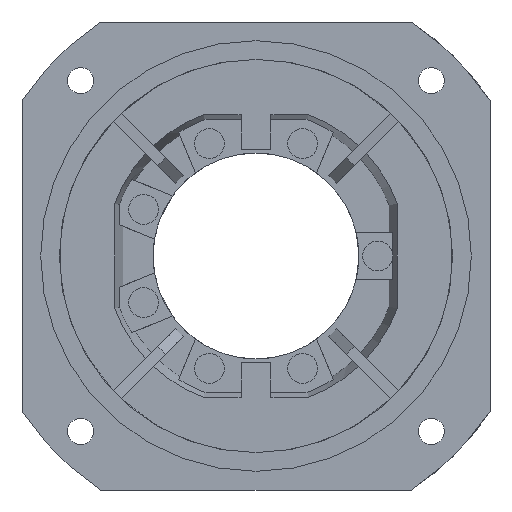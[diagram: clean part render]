
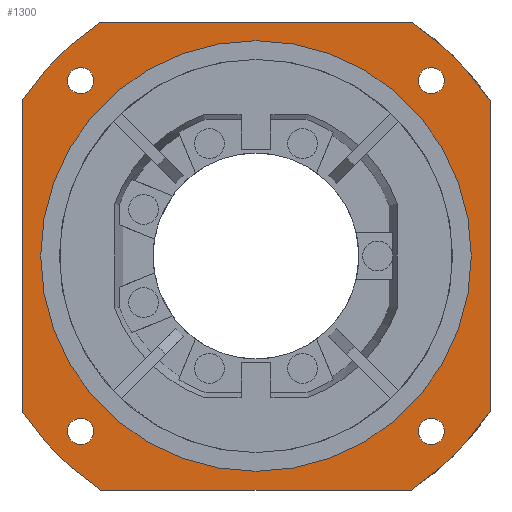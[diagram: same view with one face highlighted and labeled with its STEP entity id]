
A CAD part, left-side view. The second image highlights one B-rep face of the part: STEP entity #1300.
In plain terms, the highlighted planar face has unit normal (-1, 0, 0) as drawn and (1, 0, 0) by its records, which use the part's own axes.
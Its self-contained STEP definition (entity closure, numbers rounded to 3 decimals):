
#1300=ADVANCED_FACE('',(#1493,#1426,#1427,#1428,#1429,#1430),#4196,.T.);
#1426=FACE_BOUND('',#1681,.T.);
#1427=FACE_BOUND('',#1682,.T.);
#1428=FACE_BOUND('',#1683,.T.);
#1429=FACE_BOUND('',#1684,.T.);
#1430=FACE_BOUND('',#1685,.T.);
#1493=FACE_OUTER_BOUND('',#1680,.T.);
#1680=EDGE_LOOP('',(#2241,#2242,#2243,#2244,#2245,#2246,#2247,#2248));
#1681=EDGE_LOOP('',(#2249,#2250));
#1682=EDGE_LOOP('',(#2251,#2252));
#1683=EDGE_LOOP('',(#2253,#2254));
#1684=EDGE_LOOP('',(#2255,#2256));
#1685=EDGE_LOOP('',(#2257,#2258));
#2241=ORIENTED_EDGE('',*,*,#2945,.F.);
#2242=ORIENTED_EDGE('',*,*,#2923,.T.);
#2243=ORIENTED_EDGE('',*,*,#2756,.F.);
#2244=ORIENTED_EDGE('',*,*,#2763,.T.);
#2245=ORIENTED_EDGE('',*,*,#2768,.F.);
#2246=ORIENTED_EDGE('',*,*,#2926,.T.);
#2247=ORIENTED_EDGE('',*,*,#2929,.F.);
#2248=ORIENTED_EDGE('',*,*,#2931,.T.);
#2249=ORIENTED_EDGE('',*,*,#2941,.T.);
#2250=ORIENTED_EDGE('',*,*,#3117,.T.);
#2251=ORIENTED_EDGE('',*,*,#2938,.T.);
#2252=ORIENTED_EDGE('',*,*,#3114,.T.);
#2253=ORIENTED_EDGE('',*,*,#2935,.T.);
#2254=ORIENTED_EDGE('',*,*,#3111,.T.);
#2255=ORIENTED_EDGE('',*,*,#2932,.T.);
#2256=ORIENTED_EDGE('',*,*,#3108,.T.);
#2257=ORIENTED_EDGE('',*,*,#2947,.T.);
#2258=ORIENTED_EDGE('',*,*,#3121,.T.);
#2756=EDGE_CURVE('',#3837,#3838,#3218,.T.);
#2763=EDGE_CURVE('',#3837,#3842,#3504,.T.);
#2768=EDGE_CURVE('',#3844,#3842,#3221,.T.);
#2923=EDGE_CURVE('',#3999,#3838,#3619,.T.);
#2926=EDGE_CURVE('',#3844,#4000,#3622,.T.);
#2929=EDGE_CURVE('',#4001,#4000,#3258,.T.);
#2931=EDGE_CURVE('',#4001,#4002,#3625,.T.);
#2932=EDGE_CURVE('',#4003,#4039,#3259,.T.);
#2935=EDGE_CURVE('',#4004,#4041,#3261,.T.);
#2938=EDGE_CURVE('',#4005,#4043,#3263,.T.);
#2941=EDGE_CURVE('',#4006,#4045,#3265,.T.);
#2945=EDGE_CURVE('',#3999,#4002,#3268,.T.);
#2947=EDGE_CURVE('',#4007,#4047,#3270,.T.);
#3108=EDGE_CURVE('',#4039,#4003,#3311,.T.);
#3111=EDGE_CURVE('',#4041,#4004,#3313,.T.);
#3114=EDGE_CURVE('',#4043,#4005,#3315,.T.);
#3117=EDGE_CURVE('',#4045,#4006,#3317,.T.);
#3121=EDGE_CURVE('',#4047,#4007,#3320,.T.);
#3218=TRIMMED_CURVE($,#3346,(#5946),(#5947),.T.,.CARTESIAN.);
#3221=TRIMMED_CURVE($,#3349,(#5973),(#5974),.T.,.CARTESIAN.);
#3258=TRIMMED_CURVE($,#3386,(#6376),(#6377),.T.,.CARTESIAN.);
#3259=TRIMMED_CURVE($,#3387,(#6383),(#6384),.T.,.CARTESIAN.);
#3261=TRIMMED_CURVE($,#3389,(#6391),(#6392),.T.,.CARTESIAN.);
#3263=TRIMMED_CURVE($,#3391,(#6399),(#6400),.T.,.CARTESIAN.);
#3265=TRIMMED_CURVE($,#3393,(#6407),(#6408),.T.,.CARTESIAN.);
#3268=TRIMMED_CURVE($,#3396,(#6418),(#6419),.T.,.CARTESIAN.);
#3270=TRIMMED_CURVE($,#3398,(#6424),(#6425),.T.,.CARTESIAN.);
#3311=TRIMMED_CURVE($,#3439,(#6851),(#6852),.T.,.CARTESIAN.);
#3313=TRIMMED_CURVE($,#3441,(#6859),(#6860),.T.,.CARTESIAN.);
#3315=TRIMMED_CURVE($,#3443,(#6867),(#6868),.T.,.CARTESIAN.);
#3317=TRIMMED_CURVE($,#3445,(#6875),(#6876),.T.,.CARTESIAN.);
#3320=TRIMMED_CURVE($,#3448,(#6886),(#6887),.T.,.CARTESIAN.);
#3346=CIRCLE('',#4677,150.);
#3349=CIRCLE('',#4680,150.);
#3386=CIRCLE('',#4717,150.);
#3387=CIRCLE('',#4718,7.);
#3389=CIRCLE('',#4720,7.);
#3391=CIRCLE('',#4722,7.);
#3393=CIRCLE('',#4724,7.);
#3396=CIRCLE('',#4727,150.);
#3398=CIRCLE('',#4729,115.);
#3439=CIRCLE('',#4770,7.);
#3441=CIRCLE('',#4772,7.);
#3443=CIRCLE('',#4774,7.);
#3445=CIRCLE('',#4776,7.);
#3448=CIRCLE('',#4779,115.);
#3504=B_SPLINE_CURVE_WITH_KNOTS('',1,(#5961,#5962),.UNSPECIFIED.,.F.,.F.,
(2,2),(-165.831,0.),.UNSPECIFIED.);
#3619=B_SPLINE_CURVE_WITH_KNOTS('',1,(#6362,#6363),.UNSPECIFIED.,.F.,.F.,
(2,2),(-165.831,0.),.UNSPECIFIED.);
#3622=B_SPLINE_CURVE_WITH_KNOTS('',1,(#6368,#6369),.UNSPECIFIED.,.F.,.F.,
(2,2),(-165.831,0.),.UNSPECIFIED.);
#3625=B_SPLINE_CURVE_WITH_KNOTS('',1,(#6380,#6381),.UNSPECIFIED.,.F.,.F.,
(2,2),(-165.831,0.),.UNSPECIFIED.);
#3837=VERTEX_POINT('',#5660);
#3838=VERTEX_POINT('',#5661);
#3842=VERTEX_POINT('',#5665);
#3844=VERTEX_POINT('',#5667);
#3999=VERTEX_POINT('',#5822);
#4000=VERTEX_POINT('',#5823);
#4001=VERTEX_POINT('',#5824);
#4002=VERTEX_POINT('',#5825);
#4003=VERTEX_POINT('',#5826);
#4004=VERTEX_POINT('',#5827);
#4005=VERTEX_POINT('',#5828);
#4006=VERTEX_POINT('',#5829);
#4007=VERTEX_POINT('',#5830);
#4039=VERTEX_POINT('',#5862);
#4041=VERTEX_POINT('',#5864);
#4043=VERTEX_POINT('',#5866);
#4045=VERTEX_POINT('',#5868);
#4047=VERTEX_POINT('',#5870);
#4196=PLANE('',#4586);
#4586=AXIS2_PLACEMENT_3D('',#5520,#4881,$);
#4677=AXIS2_PLACEMENT_3D($,#5945,#4973,#4974);
#4680=AXIS2_PLACEMENT_3D($,#5972,#4979,#4980);
#4717=AXIS2_PLACEMENT_3D($,#6375,#5053,#5054);
#4718=AXIS2_PLACEMENT_3D($,#6382,#5055,#5056);
#4720=AXIS2_PLACEMENT_3D($,#6390,#5059,#5060);
#4722=AXIS2_PLACEMENT_3D($,#6398,#5063,#5064);
#4724=AXIS2_PLACEMENT_3D($,#6406,#5067,#5068);
#4727=AXIS2_PLACEMENT_3D($,#6417,#5073,#5074);
#4729=AXIS2_PLACEMENT_3D($,#6423,#5077,#5078);
#4770=AXIS2_PLACEMENT_3D($,#6850,#5159,#5160);
#4772=AXIS2_PLACEMENT_3D($,#6858,#5163,#5164);
#4774=AXIS2_PLACEMENT_3D($,#6866,#5167,#5168);
#4776=AXIS2_PLACEMENT_3D($,#6874,#5171,#5172);
#4779=AXIS2_PLACEMENT_3D($,#6885,#5177,#5178);
#4881=DIRECTION('',(1.,0.,0.));
#4973=DIRECTION('',(-1.,0.,0.));
#4974=DIRECTION('',(0.,-0.833,0.553));
#4979=DIRECTION('',(-1.,0.,0.));
#4980=DIRECTION('',(0.,-0.553,-0.833));
#5053=DIRECTION('',(-1.,0.,0.));
#5054=DIRECTION('',(0.,0.833,-0.553));
#5055=DIRECTION('',(-1.,0.,0.));
#5056=DIRECTION('',(0.,0.,-1.));
#5059=DIRECTION('',(-1.,0.,0.));
#5060=DIRECTION('',(0.,0.,-1.));
#5063=DIRECTION('',(-1.,0.,0.));
#5064=DIRECTION('',(0.,0.,-1.));
#5067=DIRECTION('',(-1.,0.,0.));
#5068=DIRECTION('',(0.,0.,-1.));
#5073=DIRECTION('',(-1.,0.,0.));
#5074=DIRECTION('',(0.,0.553,0.833));
#5077=DIRECTION('',(-1.,0.,0.));
#5078=DIRECTION('',(0.,0.,-1.));
#5159=DIRECTION('',(-1.,0.,0.));
#5160=DIRECTION('',(0.,0.,1.));
#5163=DIRECTION('',(-1.,0.,0.));
#5164=DIRECTION('',(0.,0.,1.));
#5167=DIRECTION('',(-1.,0.,0.));
#5168=DIRECTION('',(0.,0.,1.));
#5171=DIRECTION('',(-1.,0.,0.));
#5172=DIRECTION('',(0.,0.,1.));
#5177=DIRECTION('',(-1.,0.,0.));
#5178=DIRECTION('',(0.,0.,1.));
#5520=CARTESIAN_POINT('',(32.,-150.,150.));
#5660=CARTESIAN_POINT('',(32.,-125.,82.916));
#5661=CARTESIAN_POINT('',(32.,-82.916,125.));
#5665=CARTESIAN_POINT('',(32.,-125.,-82.916));
#5667=CARTESIAN_POINT('',(32.,-82.916,-125.));
#5822=CARTESIAN_POINT('',(32.,82.916,125.));
#5823=CARTESIAN_POINT('',(32.,82.916,-125.));
#5824=CARTESIAN_POINT('',(32.,125.,-82.916));
#5825=CARTESIAN_POINT('',(32.,125.,82.916));
#5826=CARTESIAN_POINT('',(32.,93.692,-100.691));
#5827=CARTESIAN_POINT('',(32.,-93.691,-100.691));
#5828=CARTESIAN_POINT('',(32.,93.692,86.692));
#5829=CARTESIAN_POINT('',(32.,-93.691,86.692));
#5830=CARTESIAN_POINT('',(32.,0.,-115.));
#5862=CARTESIAN_POINT('',(32.,93.692,-86.691));
#5864=CARTESIAN_POINT('',(32.,-93.691,-86.691));
#5866=CARTESIAN_POINT('',(32.,93.692,100.692));
#5868=CARTESIAN_POINT('',(32.,-93.691,100.692));
#5870=CARTESIAN_POINT('',(32.,0.,115.));
#5945=CARTESIAN_POINT('',(32.,0.,0.));
#5946=CARTESIAN_POINT('',(32.,-125.,82.916));
#5947=CARTESIAN_POINT('',(32.,-82.916,125.));
#5961=CARTESIAN_POINT('',(32.,-125.,82.916));
#5962=CARTESIAN_POINT('',(32.,-125.,-82.916));
#5972=CARTESIAN_POINT('',(32.,0.,0.));
#5973=CARTESIAN_POINT('',(32.,-82.916,-125.));
#5974=CARTESIAN_POINT('',(32.,-125.,-82.916));
#6362=CARTESIAN_POINT('',(32.,82.916,125.));
#6363=CARTESIAN_POINT('',(32.,-82.916,125.));
#6368=CARTESIAN_POINT('',(32.,-82.916,-125.));
#6369=CARTESIAN_POINT('',(32.,82.916,-125.));
#6375=CARTESIAN_POINT('',(32.,0.,0.));
#6376=CARTESIAN_POINT('',(32.,125.,-82.916));
#6377=CARTESIAN_POINT('',(32.,82.916,-125.));
#6380=CARTESIAN_POINT('',(32.,125.,-82.916));
#6381=CARTESIAN_POINT('',(32.,125.,82.916));
#6382=CARTESIAN_POINT('',(32.,93.692,-93.691));
#6383=CARTESIAN_POINT('',(32.,93.692,-100.691));
#6384=CARTESIAN_POINT('',(32.,93.692,-86.691));
#6390=CARTESIAN_POINT('',(32.,-93.691,-93.691));
#6391=CARTESIAN_POINT('',(32.,-93.691,-100.691));
#6392=CARTESIAN_POINT('',(32.,-93.691,-86.691));
#6398=CARTESIAN_POINT('',(32.,93.692,93.692));
#6399=CARTESIAN_POINT('',(32.,93.692,86.692));
#6400=CARTESIAN_POINT('',(32.,93.692,100.692));
#6406=CARTESIAN_POINT('',(32.,-93.691,93.692));
#6407=CARTESIAN_POINT('',(32.,-93.691,86.692));
#6408=CARTESIAN_POINT('',(32.,-93.691,100.692));
#6417=CARTESIAN_POINT('',(32.,0.,0.));
#6418=CARTESIAN_POINT('',(32.,82.916,125.));
#6419=CARTESIAN_POINT('',(32.,125.,82.916));
#6423=CARTESIAN_POINT('',(32.,0.,0.));
#6424=CARTESIAN_POINT('',(32.,0.,-115.));
#6425=CARTESIAN_POINT('',(32.,0.,115.));
#6850=CARTESIAN_POINT('',(32.,93.692,-93.691));
#6851=CARTESIAN_POINT('',(32.,93.692,-86.691));
#6852=CARTESIAN_POINT('',(32.,93.692,-100.691));
#6858=CARTESIAN_POINT('',(32.,-93.691,-93.691));
#6859=CARTESIAN_POINT('',(32.,-93.691,-86.691));
#6860=CARTESIAN_POINT('',(32.,-93.691,-100.691));
#6866=CARTESIAN_POINT('',(32.,93.692,93.692));
#6867=CARTESIAN_POINT('',(32.,93.692,100.692));
#6868=CARTESIAN_POINT('',(32.,93.692,86.692));
#6874=CARTESIAN_POINT('',(32.,-93.691,93.692));
#6875=CARTESIAN_POINT('',(32.,-93.691,100.692));
#6876=CARTESIAN_POINT('',(32.,-93.691,86.692));
#6885=CARTESIAN_POINT('',(32.,0.,0.));
#6886=CARTESIAN_POINT('',(32.,0.,115.));
#6887=CARTESIAN_POINT('',(32.,0.,-115.));
